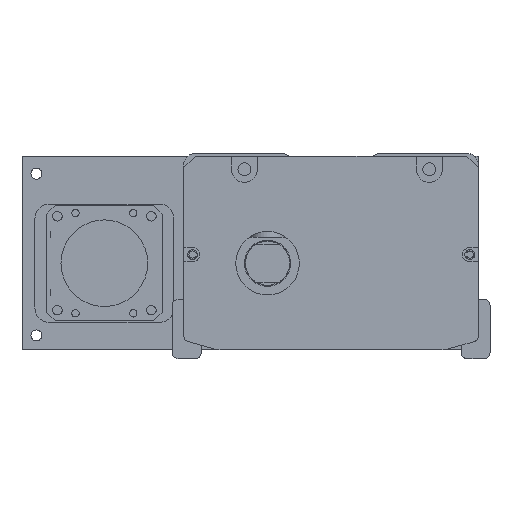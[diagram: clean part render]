
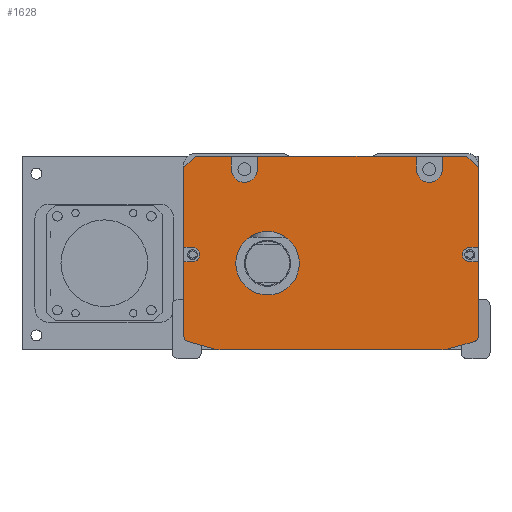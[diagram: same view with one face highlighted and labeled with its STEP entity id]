
A CAD part, front view. The second image highlights one B-rep face of the part: STEP entity #1628.
In plain terms, the highlighted planar face has unit normal (0, -1, 0).
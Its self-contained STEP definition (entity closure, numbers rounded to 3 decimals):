
#1628=ADVANCED_FACE('',(#4292,#4293),#2306,.F.);
#2306=PLANE('',#13565);
#2604=LINE('',#18821,#3405);
#2608=LINE('',#18829,#3409);
#2618=LINE('',#18850,#3419);
#2622=LINE('',#18858,#3423);
#2891=LINE('',#19851,#3692);
#2892=LINE('',#19853,#3693);
#2893=LINE('',#19855,#3694);
#2894=LINE('',#19859,#3695);
#2895=LINE('',#19861,#3696);
#2896=LINE('',#19863,#3697);
#2897=LINE('',#19867,#3698);
#2898=LINE('',#19869,#3699);
#2899=LINE('',#19871,#3700);
#2900=LINE('',#19872,#3701);
#2901=LINE('',#19876,#3702);
#2902=LINE('',#19879,#3703);
#2903=LINE('',#19883,#3704);
#2904=LINE('',#19887,#3705);
#2905=LINE('',#19890,#3706);
#2906=LINE('',#19894,#3707);
#3405=VECTOR('',#14809,1.);
#3409=VECTOR('',#14813,1.);
#3419=VECTOR('',#14825,1.);
#3423=VECTOR('',#14829,1.);
#3692=VECTOR('',#15894,1.);
#3693=VECTOR('',#15895,1.);
#3694=VECTOR('',#15896,1.);
#3695=VECTOR('',#15899,1.);
#3696=VECTOR('',#15900,1.);
#3697=VECTOR('',#15901,1.);
#3698=VECTOR('',#15904,1.);
#3699=VECTOR('',#15905,1.);
#3700=VECTOR('',#15906,1.);
#3701=VECTOR('',#15907,1.);
#3702=VECTOR('',#15910,1.);
#3703=VECTOR('',#15913,1.);
#3704=VECTOR('',#15916,1.);
#3705=VECTOR('',#15919,1.);
#3706=VECTOR('',#15922,1.);
#3707=VECTOR('',#15925,1.);
#4292=FACE_BOUND('',#4996,.T.);
#4293=FACE_BOUND('',#4997,.T.);
#4996=EDGE_LOOP('',(#6874,#6875,#6876,#6877,#6878,#6879,#6880,#6881,#6882,
#6883,#6884,#6885,#6886,#6887,#6888,#6889,#6890,#6891,#6892,#6893,#6894,
#6895,#6896,#6897,#6898,#6899,#6900,#6901));
#4997=EDGE_LOOP('',(#6902));
#6874=ORIENTED_EDGE('',*,*,#10758,.T.);
#6875=ORIENTED_EDGE('',*,*,#11242,.T.);
#6876=ORIENTED_EDGE('',*,*,#11243,.T.);
#6877=ORIENTED_EDGE('',*,*,#11244,.F.);
#6878=ORIENTED_EDGE('',*,*,#11245,.T.);
#6879=ORIENTED_EDGE('',*,*,#11246,.F.);
#6880=ORIENTED_EDGE('',*,*,#11247,.T.);
#6881=ORIENTED_EDGE('',*,*,#11248,.F.);
#6882=ORIENTED_EDGE('',*,*,#11249,.T.);
#6883=ORIENTED_EDGE('',*,*,#11250,.F.);
#6884=ORIENTED_EDGE('',*,*,#11251,.T.);
#6885=ORIENTED_EDGE('',*,*,#11252,.T.);
#6886=ORIENTED_EDGE('',*,*,#10776,.T.);
#6887=ORIENTED_EDGE('',*,*,#11253,.T.);
#6888=ORIENTED_EDGE('',*,*,#11254,.T.);
#6889=ORIENTED_EDGE('',*,*,#11255,.T.);
#6890=ORIENTED_EDGE('',*,*,#10772,.T.);
#6891=ORIENTED_EDGE('',*,*,#11256,.T.);
#6892=ORIENTED_EDGE('',*,*,#11257,.T.);
#6893=ORIENTED_EDGE('',*,*,#11258,.T.);
#6894=ORIENTED_EDGE('',*,*,#11259,.T.);
#6895=ORIENTED_EDGE('',*,*,#11260,.T.);
#6896=ORIENTED_EDGE('',*,*,#11261,.T.);
#6897=ORIENTED_EDGE('',*,*,#11262,.T.);
#6898=ORIENTED_EDGE('',*,*,#10762,.T.);
#6899=ORIENTED_EDGE('',*,*,#11263,.T.);
#6900=ORIENTED_EDGE('',*,*,#11264,.T.);
#6901=ORIENTED_EDGE('',*,*,#11265,.T.);
#6902=ORIENTED_EDGE('',*,*,#11266,.T.);
#9483=VERTEX_POINT('',#18820);
#9484=VERTEX_POINT('',#18822);
#9487=VERTEX_POINT('',#18828);
#9488=VERTEX_POINT('',#18830);
#9497=VERTEX_POINT('',#18849);
#9498=VERTEX_POINT('',#18851);
#9501=VERTEX_POINT('',#18857);
#9502=VERTEX_POINT('',#18859);
#9828=VERTEX_POINT('',#19852);
#9829=VERTEX_POINT('',#19854);
#9830=VERTEX_POINT('',#19856);
#9831=VERTEX_POINT('',#19858);
#9832=VERTEX_POINT('',#19860);
#9833=VERTEX_POINT('',#19862);
#9834=VERTEX_POINT('',#19864);
#9835=VERTEX_POINT('',#19866);
#9836=VERTEX_POINT('',#19868);
#9837=VERTEX_POINT('',#19870);
#9838=VERTEX_POINT('',#19873);
#9839=VERTEX_POINT('',#19875);
#9840=VERTEX_POINT('',#19878);
#9841=VERTEX_POINT('',#19880);
#9842=VERTEX_POINT('',#19882);
#9843=VERTEX_POINT('',#19884);
#9844=VERTEX_POINT('',#19886);
#9845=VERTEX_POINT('',#19888);
#9846=VERTEX_POINT('',#19891);
#9847=VERTEX_POINT('',#19893);
#9848=VERTEX_POINT('',#19896);
#10758=EDGE_CURVE('',#9484,#9483,#2604,.T.);
#10762=EDGE_CURVE('',#9488,#9487,#2608,.T.);
#10772=EDGE_CURVE('',#9498,#9497,#2618,.T.);
#10776=EDGE_CURVE('',#9502,#9501,#2622,.T.);
#11242=EDGE_CURVE('',#9483,#9828,#2891,.T.);
#11243=EDGE_CURVE('',#9828,#9829,#2892,.T.);
#11244=EDGE_CURVE('',#9830,#9829,#2893,.T.);
#11245=EDGE_CURVE('',#9830,#9831,#12636,.T.);
#11246=EDGE_CURVE('',#9832,#9831,#2894,.T.);
#11247=EDGE_CURVE('',#9832,#9833,#2895,.T.);
#11248=EDGE_CURVE('',#9834,#9833,#2896,.T.);
#11249=EDGE_CURVE('',#9834,#9835,#12637,.T.);
#11250=EDGE_CURVE('',#9836,#9835,#2897,.T.);
#11251=EDGE_CURVE('',#9836,#9837,#2898,.T.);
#11252=EDGE_CURVE('',#9837,#9502,#2899,.T.);
#11253=EDGE_CURVE('',#9501,#9838,#2900,.T.);
#11254=EDGE_CURVE('',#9838,#9839,#12638,.T.);
#11255=EDGE_CURVE('',#9839,#9498,#2901,.T.);
#11256=EDGE_CURVE('',#9497,#9840,#12639,.T.);
#11257=EDGE_CURVE('',#9840,#9841,#2902,.T.);
#11258=EDGE_CURVE('',#9841,#9842,#12640,.T.);
#11259=EDGE_CURVE('',#9842,#9843,#2903,.T.);
#11260=EDGE_CURVE('',#9843,#9844,#12641,.T.);
#11261=EDGE_CURVE('',#9844,#9845,#2904,.T.);
#11262=EDGE_CURVE('',#9845,#9488,#12642,.T.);
#11263=EDGE_CURVE('',#9487,#9846,#2905,.T.);
#11264=EDGE_CURVE('',#9846,#9847,#12643,.T.);
#11265=EDGE_CURVE('',#9847,#9484,#2906,.T.);
#11266=EDGE_CURVE('',#9848,#9848,#12644,.T.);
#12636=CIRCLE('',#13556,4.5);
#12637=CIRCLE('',#13557,4.5);
#12638=CIRCLE('',#13558,2.5);
#12639=CIRCLE('',#13559,2.);
#12640=CIRCLE('',#13560,10.);
#12641=CIRCLE('',#13561,10.);
#12642=CIRCLE('',#13562,2.);
#12643=CIRCLE('',#13563,2.5);
#12644=CIRCLE('',#13564,11.);
#13556=AXIS2_PLACEMENT_3D('',#19857,#15897,#15898);
#13557=AXIS2_PLACEMENT_3D('',#19865,#15902,#15903);
#13558=AXIS2_PLACEMENT_3D('',#19874,#15908,#15909);
#13559=AXIS2_PLACEMENT_3D('',#19877,#15911,#15912);
#13560=AXIS2_PLACEMENT_3D('',#19881,#15914,#15915);
#13561=AXIS2_PLACEMENT_3D('',#19885,#15917,#15918);
#13562=AXIS2_PLACEMENT_3D('',#19889,#15920,#15921);
#13563=AXIS2_PLACEMENT_3D('',#19892,#15923,#15924);
#13564=AXIS2_PLACEMENT_3D('',#19895,#15926,#15927);
#13565=AXIS2_PLACEMENT_3D('',#19897,#15928,#15929);
#14809=DIRECTION('',(0.,0.,1.));
#14813=DIRECTION('',(0.,0.,1.));
#14825=DIRECTION('',(0.,0.,-1.));
#14829=DIRECTION('',(0.,0.,-1.));
#15894=DIRECTION('',(-0.707,0.,0.707));
#15895=DIRECTION('',(-1.,0.,0.));
#15896=DIRECTION('',(0.,0.,1.));
#15897=DIRECTION('',(0.,1.,0.));
#15898=DIRECTION('',(0.,0.,1.));
#15899=DIRECTION('',(0.,0.,-1.));
#15900=DIRECTION('',(-1.,0.,0.));
#15901=DIRECTION('',(0.,0.,1.));
#15902=DIRECTION('',(0.,1.,0.));
#15903=DIRECTION('',(0.,0.,1.));
#15904=DIRECTION('',(0.,0.,-1.));
#15905=DIRECTION('',(-1.,0.,0.));
#15906=DIRECTION('',(-0.707,0.,-0.707));
#15907=DIRECTION('',(1.,0.,0.));
#15908=DIRECTION('',(0.,1.,0.));
#15909=DIRECTION('',(0.,0.,1.));
#15910=DIRECTION('',(-1.,0.,0.));
#15911=DIRECTION('',(0.,-1.,0.));
#15912=DIRECTION('',(0.,0.,1.));
#15913=DIRECTION('',(0.963,0.,-0.269));
#15914=DIRECTION('',(0.,-1.,0.));
#15915=DIRECTION('',(0.,0.,1.));
#15916=DIRECTION('',(1.,0.,0.));
#15917=DIRECTION('',(0.,-1.,0.));
#15918=DIRECTION('',(0.,0.,-1.));
#15919=DIRECTION('',(0.963,0.,0.269));
#15920=DIRECTION('',(0.,-1.,0.));
#15921=DIRECTION('',(0.,0.,-1.));
#15922=DIRECTION('',(-1.,0.,0.));
#15923=DIRECTION('',(0.,1.,0.));
#15924=DIRECTION('',(0.,0.,1.));
#15925=DIRECTION('',(1.,0.,0.));
#15926=DIRECTION('',(0.,1.,0.));
#15927=DIRECTION('',(0.,0.,1.));
#15928=DIRECTION('',(0.,1.,0.));
#15929=DIRECTION('',(1.,0.,0.));
#18820=CARTESIAN_POINT('',(47.808,-267.5,-5.));
#18821=CARTESIAN_POINT('',(47.808,-267.5,-1.));
#18822=CARTESIAN_POINT('',(47.808,-267.5,-32.5));
#18828=CARTESIAN_POINT('',(47.808,-267.5,-37.5));
#18829=CARTESIAN_POINT('',(47.808,-267.5,-1.));
#18830=CARTESIAN_POINT('',(47.808,-267.5,-63.212));
#18849=CARTESIAN_POINT('',(-54.192,-267.5,-63.212));
#18850=CARTESIAN_POINT('',(-54.192,-267.5,-62.));
#18851=CARTESIAN_POINT('',(-54.192,-267.5,-37.5));
#18857=CARTESIAN_POINT('',(-54.192,-267.5,-32.5));
#18858=CARTESIAN_POINT('',(-54.192,-267.5,-62.));
#18859=CARTESIAN_POINT('',(-54.192,-267.5,-5.));
#19851=CARTESIAN_POINT('',(43.808,-267.5,-1.));
#19852=CARTESIAN_POINT('',(43.808,-267.5,-1.));
#19853=CARTESIAN_POINT('',(-3.192,-267.5,-1.));
#19854=CARTESIAN_POINT('',(35.308,-267.5,-1.));
#19855=CARTESIAN_POINT('',(35.308,-267.5,-1.));
#19856=CARTESIAN_POINT('',(35.308,-267.5,-5.5));
#19857=CARTESIAN_POINT('',(30.808,-267.5,-5.5));
#19858=CARTESIAN_POINT('',(26.308,-267.5,-5.5));
#19859=CARTESIAN_POINT('',(26.308,-267.5,-1.));
#19860=CARTESIAN_POINT('',(26.308,-267.5,-1.));
#19861=CARTESIAN_POINT('',(-54.192,-267.5,-1.));
#19862=CARTESIAN_POINT('',(-28.692,-267.5,-1.));
#19863=CARTESIAN_POINT('',(-28.692,-267.5,-3.5));
#19864=CARTESIAN_POINT('',(-28.692,-267.5,-5.5));
#19865=CARTESIAN_POINT('',(-33.192,-267.5,-5.5));
#19866=CARTESIAN_POINT('',(-37.692,-267.5,-5.5));
#19867=CARTESIAN_POINT('',(-37.692,-267.5,-1.));
#19868=CARTESIAN_POINT('',(-37.692,-267.5,-1.));
#19869=CARTESIAN_POINT('',(-54.192,-267.5,-1.));
#19870=CARTESIAN_POINT('',(-50.192,-267.5,-1.));
#19871=CARTESIAN_POINT('',(-54.192,-267.5,-5.));
#19872=CARTESIAN_POINT('',(-3.192,-267.5,-32.5));
#19873=CARTESIAN_POINT('',(-51.192,-267.5,-32.5));
#19874=CARTESIAN_POINT('',(-51.192,-267.5,-35.));
#19875=CARTESIAN_POINT('',(-51.192,-267.5,-37.5));
#19876=CARTESIAN_POINT('',(-3.192,-267.5,-37.5));
#19877=CARTESIAN_POINT('',(-52.192,-267.5,-63.212));
#19878=CARTESIAN_POINT('',(-52.731,-267.5,-65.138));
#19879=CARTESIAN_POINT('',(-55.807,-267.5,-64.279));
#19880=CARTESIAN_POINT('',(-43.809,-267.5,-67.631));
#19881=CARTESIAN_POINT('',(-41.118,-267.5,-58.));
#19882=CARTESIAN_POINT('',(-41.118,-267.5,-68.));
#19883=CARTESIAN_POINT('',(-54.692,-267.5,-68.));
#19884=CARTESIAN_POINT('',(34.733,-267.5,-68.));
#19885=CARTESIAN_POINT('',(34.733,-267.5,-58.));
#19886=CARTESIAN_POINT('',(37.424,-267.5,-67.631));
#19887=CARTESIAN_POINT('',(49.422,-267.5,-64.279));
#19888=CARTESIAN_POINT('',(46.346,-267.5,-65.138));
#19889=CARTESIAN_POINT('',(45.808,-267.5,-63.212));
#19890=CARTESIAN_POINT('',(-3.192,-267.5,-37.5));
#19891=CARTESIAN_POINT('',(44.808,-267.5,-37.5));
#19892=CARTESIAN_POINT('',(44.808,-267.5,-35.));
#19893=CARTESIAN_POINT('',(44.808,-267.5,-32.5));
#19894=CARTESIAN_POINT('',(-3.192,-267.5,-32.5));
#19895=CARTESIAN_POINT('',(-25.192,-267.5,-38.));
#19896=CARTESIAN_POINT('',(-25.192,-267.5,-27.));
#19897=CARTESIAN_POINT('',(-3.192,-267.5,-1.));
